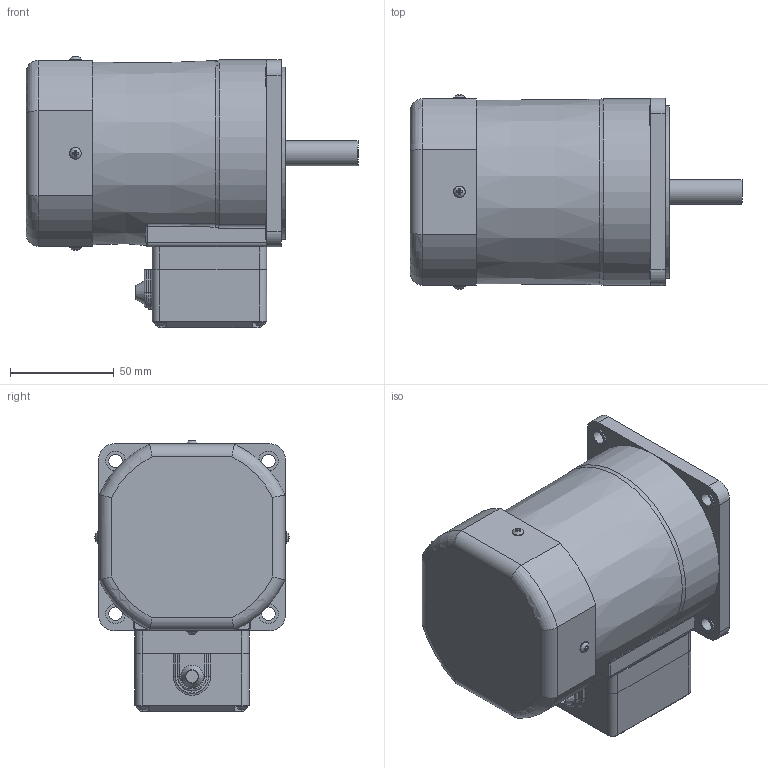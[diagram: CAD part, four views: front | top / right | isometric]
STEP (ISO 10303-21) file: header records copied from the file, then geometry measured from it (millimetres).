
FILE_DESCRIPTION((''),'2;1');
FILE_NAME('D:\김성묵\업무폴더\개발 파일\프로젝트 개발 AB등급\AC표준형 개발자료\90각 이하 표준형 개발\도면작성 자료\3D 도면\홈페이지용 3D 파일\60W MOTOR\T1 BOX TYPE\S9(I,R)60S-T1.stp','2015-03-26T18:38:21',('smkim'),(''),'Autodesk Inventor 2012','Autodesk Inventor 2012','');
FILE_SCHEMA(('AUTOMOTIVE_DESIGN { 1 0 10303 214 1 1 1 1 }'));
Length unit declared in the file: millimetre
Products named in the file (9): S9(I,R)60S-T1; S9I60GㅁTCE; FAN COVER; 552300620; 80 각 T1 BOX_CORD BUSH; 25W T1 BOX CORD BUSH G; 80각 T1 BOX; S9I60S
Assembly tree (15 placements, depth 3):
  S9(I,R)60S-T1
    S9I60GㅁTCE
    FAN COVER
      FAN COVER
      552300620  x4
    80 각 T1 BOX_CORD BUSH
      25W T1 BOX CORD BUSH G
      80각 T1 BOX
    552300620  x4
    S9I60S
Bounding box: 159.8 x 93.49 x 130.75 mm (x, y, z)
Volume: 1013235.4 mm3; surface area: 109244.5 mm2
Topology: 14 solids, 14 shells, 377 faces, 899 edges, 575 vertices
Faces by surface type: plane 216, cylinder 93, torus 27, bspline 26, cone 15
Full cylindrical faces by diameter (mm): 3 x12, 3.5 x4, 5.6 x8, 6.5 x4, 8 x1, 9.5 x4, 12 x1, 40 x1, 83 x1, 86 x1
Entity records: 7463 total; most frequent: CARTESIAN_POINT 1978, DIRECTION 1103, ORIENTED_EDGE 1016, EDGE_CURVE 508, AXIS2_PLACEMENT_3D 422, VERTEX_POINT 348, EDGE_LOOP 296, VECTOR 259
